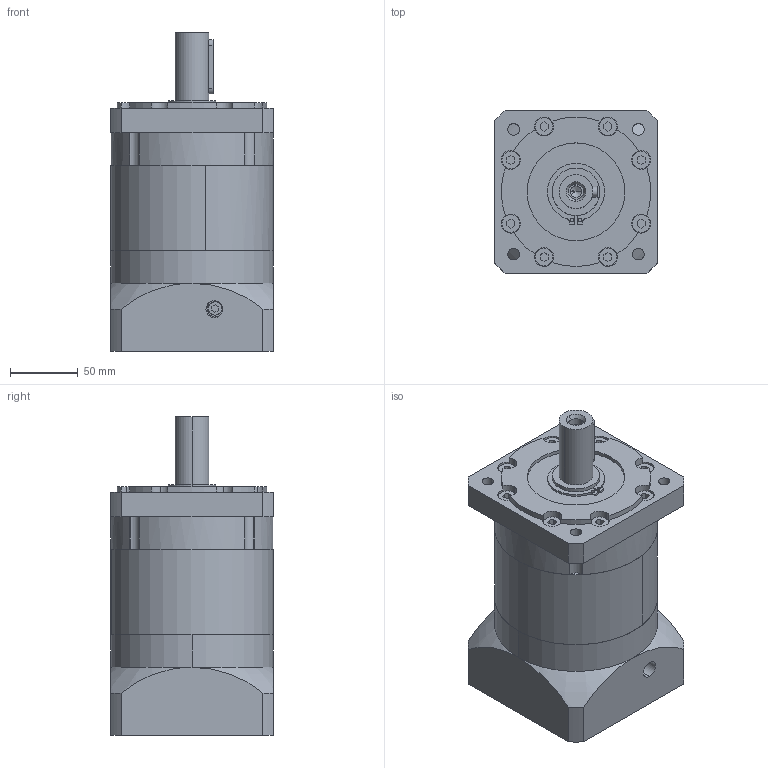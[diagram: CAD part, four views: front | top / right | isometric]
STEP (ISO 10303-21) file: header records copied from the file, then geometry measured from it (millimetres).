
FILE_DESCRIPTION (( 'STEP AP203' ), '1' );
FILE_NAME ('PLF120-L2-22-110-145.STEP', '2022-06-23T02:42:10', ( 'Windows User' ), ( 'P R C' ), 'SwSTEP 2.0', 'SolidWorks 2016', '' );
FILE_SCHEMA (( 'CONFIG_CONTROL_DESIGN' ));
Length unit declared in the file: millimetre
Products named in the file (8): 粣創-6007 40x68x15; PLF120-L2-22-110-145; 囀鞠褒蹟佪 M6x20; PLF120 蟀諉啣22-110-145; PLF120 內齿圈_二级内齿圈; PLF120奻屳唳; PLF120狟屳唳; 邧埴瑩 8x7x40
Assembly tree (7 placements, depth 2):
  PLF120-L2-22-110-145
    囀鞠褒蹟佪 M6x20
    PLF120 蟀諉啣22-110-145
    PLF120 內齿圈_二级内齿圈
    PLF120奻屳唳
    PLF120狟屳唳
    邧埴瑩 8x7x40
    粣創-6007 40x68x15
Bounding box: 120 x 120 x 234.5 mm (x, y, z)
Volume: 2029790.3 mm3; surface area: 251399.7 mm2
Topology: 7 solids, 15 shells, 1144 faces, 3119 edges, 2066 vertices
Faces by surface type: plane 634, cylinder 219, bspline 131, sphere 94, torus 52, cone 14
Entity records: 46385 total; most frequent: CARTESIAN_POINT 17463, ORIENTED_EDGE 6206, DIRECTION 5329, EDGE_CURVE 3103, VERTEX_POINT 2062, AXIS2_PLACEMENT_3D 1876, LINE 1577, VECTOR 1577
